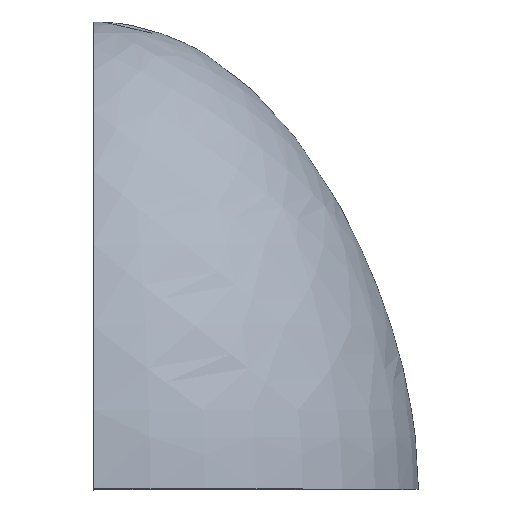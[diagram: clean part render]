
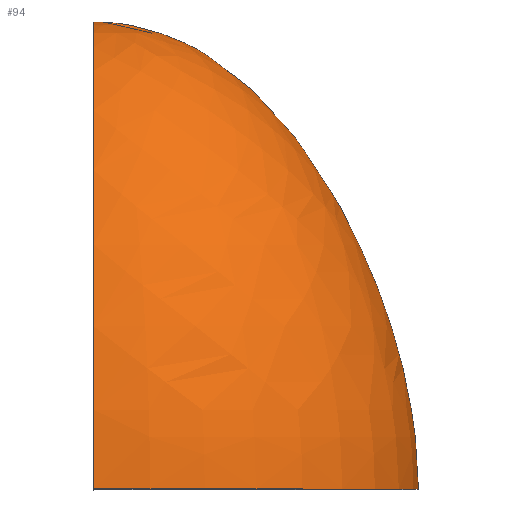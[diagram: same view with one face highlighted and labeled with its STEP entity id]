
A CAD part, top view. The second image highlights one B-rep face of the part: STEP entity #94.
In plain terms, the highlighted face is a revolution surface.
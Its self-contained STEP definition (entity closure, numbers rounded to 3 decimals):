
#52=CARTESIAN_POINT('Control Point',(0.,0.,82.)) ;
#53=CARTESIAN_POINT('Control Point',(0.,28.739,82.)) ;
#54=CARTESIAN_POINT('Control Point',(0.,61.831,72.277)) ;
#55=CARTESIAN_POINT('Control Point',(0.,99.277,52.831)) ;
#56=CARTESIAN_POINT('Control Point',(0.,118.,28.739)) ;
#57=CARTESIAN_POINT('Control Point',(0.,118.,0.)) ;
#58=CARTESIAN_POINT('Axis1P Location',(0.,0.,0.)) ;
#63=CARTESIAN_POINT('Control Point',(0.,0.,-82.)) ;
#64=CARTESIAN_POINT('Control Point',(0.,28.739,-82.)) ;
#65=CARTESIAN_POINT('Control Point',(0.,61.831,-72.277)) ;
#66=CARTESIAN_POINT('Control Point',(0.,99.277,-52.831)) ;
#67=CARTESIAN_POINT('Control Point',(0.,118.,-28.739)) ;
#68=CARTESIAN_POINT('Control Point',(0.,118.,0.)) ;
#69=CARTESIAN_POINT('Vertex',(0.,0.,-82.)) ;
#71=CARTESIAN_POINT('Vertex',(0.,118.,0.)) ;
#75=CARTESIAN_POINT('Control Point',(0.,0.,82.)) ;
#76=CARTESIAN_POINT('Control Point',(0.,28.739,82.)) ;
#77=CARTESIAN_POINT('Control Point',(0.,61.831,72.277)) ;
#78=CARTESIAN_POINT('Control Point',(0.,99.277,52.831)) ;
#79=CARTESIAN_POINT('Control Point',(0.,118.,28.739)) ;
#80=CARTESIAN_POINT('Control Point',(0.,118.,0.)) ;
#81=CARTESIAN_POINT('Vertex',(0.,0.,82.)) ;
#84=CARTESIAN_POINT('Axis2P3D Location',(0.,0.,0.)) ;
#59=DIRECTION('Axis1P Direction',(0.,1.,0.)) ;
#85=DIRECTION('Axis2P3D Direction',(0.,1.,0.)) ;
#86=AXIS2_PLACEMENT_3D('Circle Axis2P3D',#84,#85,$) ;
#90=ORIENTED_EDGE('',*,*,#73,.T.) ;
#91=ORIENTED_EDGE('',*,*,#83,.F.) ;
#92=ORIENTED_EDGE('',*,*,#88,.T.) ;
#94=ADVANCED_FACE('PartBody',(#93),#61,.T.) ;
#60=AXIS1_PLACEMENT('Revolution Surface Axis1P',#58,#59) ;
#51=B_SPLINE_CURVE_WITH_KNOTS('',5,(#52,#53,#54,#55,#56,#57),.UNSPECIFIED.,.F.,.U.,(6,6),(0.,143.694),.UNSPECIFIED.) ;
#62=B_SPLINE_CURVE_WITH_KNOTS('',5,(#63,#64,#65,#66,#67,#68),.UNSPECIFIED.,.F.,.U.,(6,6),(0.,143.694),.UNSPECIFIED.) ;
#74=B_SPLINE_CURVE_WITH_KNOTS('',5,(#75,#76,#77,#78,#79,#80),.UNSPECIFIED.,.F.,.U.,(6,6),(0.,143.694),.UNSPECIFIED.) ;
#87=CIRCLE('generated circle',#86,82.) ;
#73=EDGE_CURVE('',#70,#72,#62,.T.) ;
#83=EDGE_CURVE('',#82,#72,#74,.T.) ;
#88=EDGE_CURVE('',#82,#70,#87,.T.) ;
#89=EDGE_LOOP('',(#90,#91,#92)) ;
#93=FACE_OUTER_BOUND('',#89,.T.) ;
#61=SURFACE_OF_REVOLUTION('Surface of Revolution',#51,#60) ;
#70=VERTEX_POINT('',#69) ;
#72=VERTEX_POINT('',#71) ;
#82=VERTEX_POINT('',#81) ;
